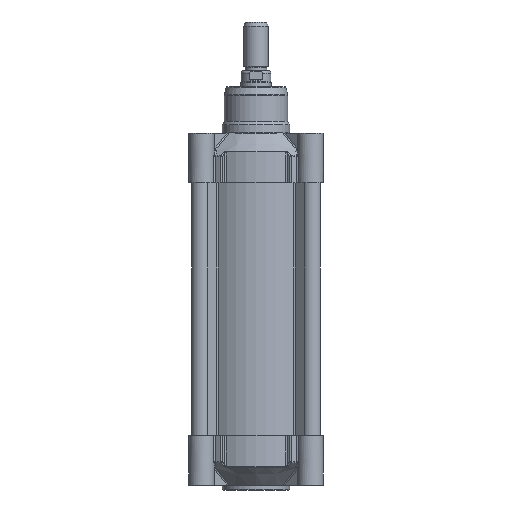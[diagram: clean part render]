
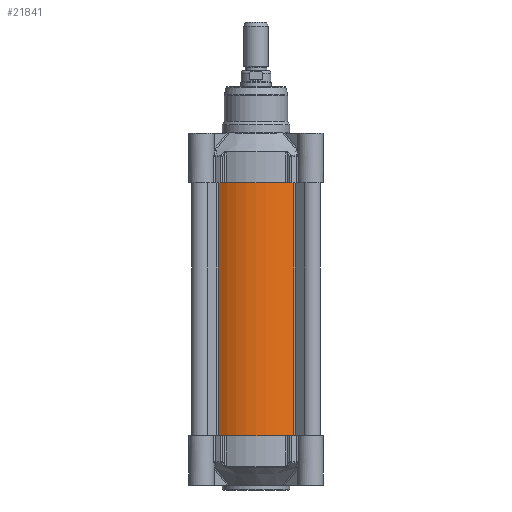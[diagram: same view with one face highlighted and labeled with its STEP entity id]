
A CAD part, left-side view. The second image highlights one B-rep face of the part: STEP entity #21841.
In plain terms, the highlighted cylindrical face has radius 52.7 mm (diameter 105.4 mm), a partial arc.
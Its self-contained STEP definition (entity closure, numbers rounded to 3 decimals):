
#1972=LINE('',#43617,#3030);
#1973=LINE('',#43621,#3031);
#3030=VECTOR('',#29906,10.);
#3031=VECTOR('',#29911,10.);
#4020=CYLINDRICAL_SURFACE('',#24279,52.7);
#5708=FACE_OUTER_BOUND('',#7393,.T.);
#7393=EDGE_LOOP('',(#18817,#18818,#18819,#18820));
#8528=CIRCLE('',#24118,52.7);
#8585=CIRCLE('',#24280,52.7);
#10334=VERTEX_POINT('',#43193);
#10335=VERTEX_POINT('',#43195);
#10441=VERTEX_POINT('',#43615);
#10442=VERTEX_POINT('',#43619);
#13081=EDGE_CURVE('',#10334,#10335,#8528,.T.);
#13292=EDGE_CURVE('',#10334,#10441,#1972,.T.);
#13293=EDGE_CURVE('',#10442,#10441,#8585,.T.);
#13294=EDGE_CURVE('',#10335,#10442,#1973,.T.);
#18817=ORIENTED_EDGE('',*,*,#13292,.T.);
#18818=ORIENTED_EDGE('',*,*,#13293,.F.);
#18819=ORIENTED_EDGE('',*,*,#13294,.F.);
#18820=ORIENTED_EDGE('',*,*,#13081,.F.);
#21841=ADVANCED_FACE('',(#5708),#4020,.T.);
#24118=AXIS2_PLACEMENT_3D('',#43196,#29430,#29431);
#24279=AXIS2_PLACEMENT_3D('',#43618,#29907,#29908);
#24280=AXIS2_PLACEMENT_3D('',#43620,#29909,#29910);
#29430=DIRECTION('center_axis',(0.,0.,-1.));
#29431=DIRECTION('ref_axis',(-0.586,-0.81,0.));
#29906=DIRECTION('',(0.,0.,1.));
#29907=DIRECTION('center_axis',(0.,0.,1.));
#29908=DIRECTION('ref_axis',(-0.586,-0.81,0.));
#29909=DIRECTION('center_axis',(0.,0.,1.));
#29910=DIRECTION('ref_axis',(-0.586,-0.81,0.));
#29911=DIRECTION('',(0.,0.,1.));
#43193=CARTESIAN_POINT('',(30.896,-42.693,-103.5));
#43195=CARTESIAN_POINT('',(-30.896,-42.693,-103.5));
#43196=CARTESIAN_POINT('Origin',(0.,0.,
-103.5));
#43615=CARTESIAN_POINT('',(30.896,-42.693,103.5));
#43617=CARTESIAN_POINT('',(30.896,-42.693,0.));
#43618=CARTESIAN_POINT('Origin',(0.,0.,
0.));
#43619=CARTESIAN_POINT('',(-30.896,-42.693,103.5));
#43620=CARTESIAN_POINT('Origin',(0.,0.,
103.5));
#43621=CARTESIAN_POINT('',(-30.896,-42.693,0.));
